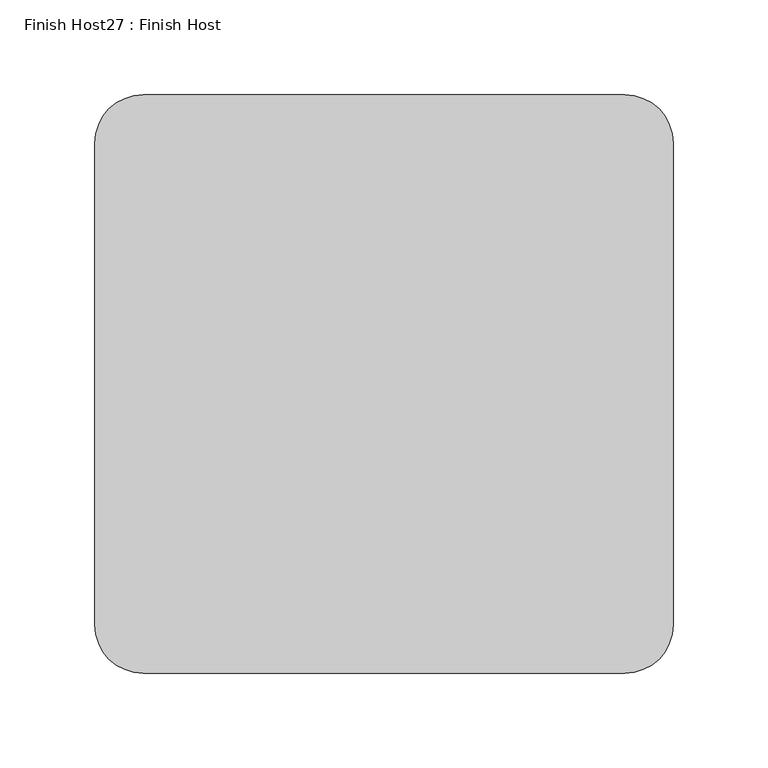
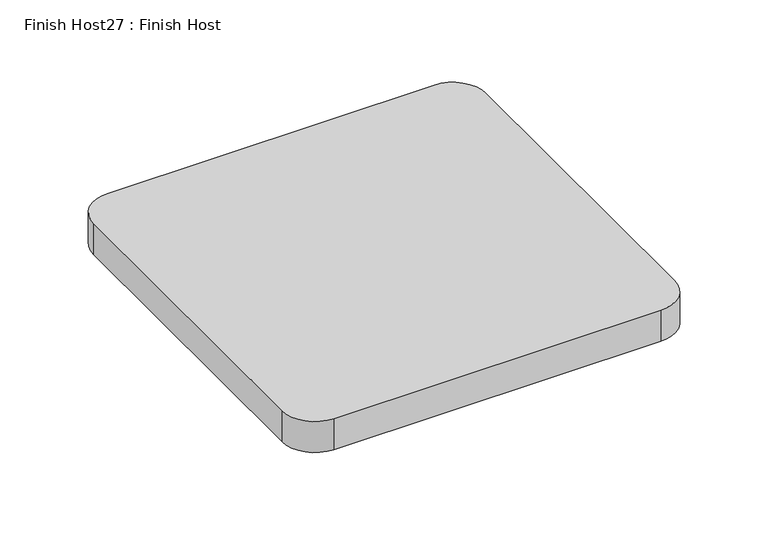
"""IFC4 building model written with IfcOpenShell, lengths in millimetres: proxy geometry, Finish Host27 : Finish Host."""

from ifc_helpers import new_model, si_unit, point, frame_2d, origin, origin_with_axes, place, context, project, spatial, polyline, circle_curve, trimmed, segment, composite_curve, outline, extrude, source, transform, mapped, element, save


def finish_host27_finish_host_97b71195(model_context):
    return source(origin(), model_context, "Body", "SweptSolid", [
        extrude(outline(composite_curve([segment(polyline([(5177.9649374, 3242.5667263), (5177.9649374, 3496.5667263)]), True, "CONTINUOUS"), segment(trimmed(circle_curve(frame_2d((5203.3649374, 3496.5667263)), 25.4), [point((5177.9649374, 3496.5667263))], [point((5203.3649374, 3521.9667263))], False, "CARTESIAN"), True, "CONTINUOUS"), segment(polyline([(5203.3649374, 3521.9667263), (5457.3649374, 3521.9667263)]), True, "CONTINUOUS"), segment(trimmed(circle_curve(frame_2d((5457.3649374, 3496.5667263)), 25.4), [point((5457.3649374, 3521.9667263))], [point((5482.7649374, 3496.5667263))], False, "CARTESIAN"), True, "CONTINUOUS"), segment(polyline([(5482.7649374, 3496.5667263), (5482.7649374, 3242.5667263)]), True, "CONTINUOUS"), segment(trimmed(circle_curve(frame_2d((5457.3649374, 3242.5667263)), 25.4), [point((5482.7649374, 3242.5667263))], [point((5457.3649374, 3217.1667263))], False, "CARTESIAN"), True, "CONTINUOUS"), segment(polyline([(5457.3649374, 3217.1667263), (5203.3649374, 3217.1667263)]), True, "CONTINUOUS"), segment(trimmed(circle_curve(frame_2d((5203.3649374, 3242.5667263)), 25.4), [point((5203.3649374, 3217.1667263))], [point((5177.9649374, 3242.5667263))], False, "CARTESIAN"), True, "CONTINUOUS")], self_intersect=False)), origin_with_axes(), (0.0, 0.0, 1.0), 25.4),
    ])


if __name__ == "__main__":
    model = new_model("IFC4")
    model_context = context("Model", 3, world=origin())
    ifc_project = project(units=[si_unit("LENGTHUNIT", "METRE", prefix="MILLI")], contexts=[model_context])
    site = spatial("IfcSite", under=ifc_project)
    building = spatial("IfcBuilding", under=site)
    placement = place(None, origin())
    finish_host27_finish_host_shape = finish_host27_finish_host_97b71195(model_context)
    element("IfcBuildingElementProxy", 1, Name="Finish Host27 : Finish Host", ObjectType="Finish Host27 : Finish Host", at=placement, inside=building, context=model_context, shape_type="MappedRepresentation", body=[
        mapped(finish_host27_finish_host_shape, transform((0.0, 0.0, 0.0), x_axis=(1.0, 0.0, 0.0), y_axis=(0.0, 1.0, 0.0), z_axis=(0.0, 0.0, 1.0))),
    ])
    save(model, "model.ifc")
